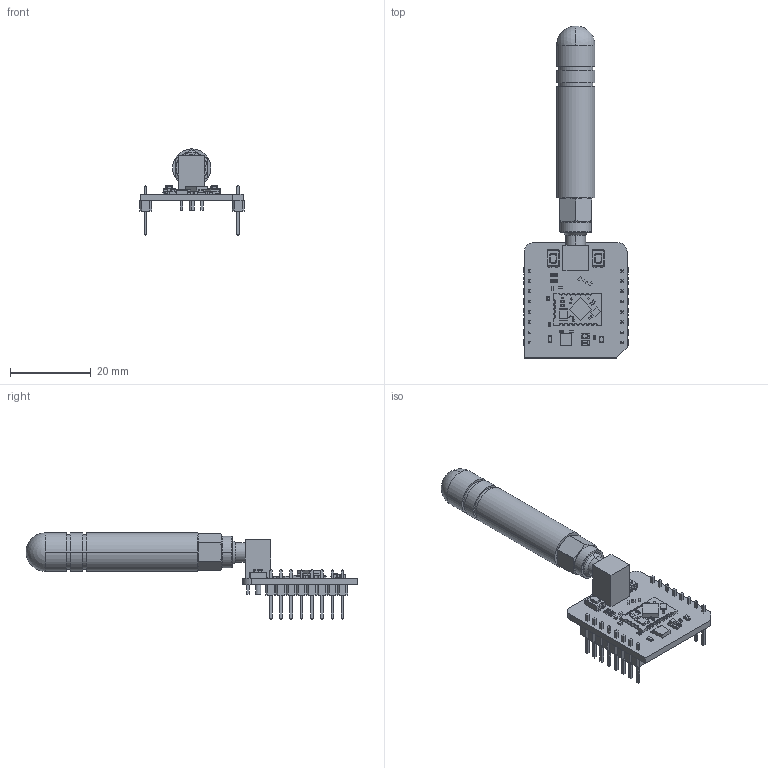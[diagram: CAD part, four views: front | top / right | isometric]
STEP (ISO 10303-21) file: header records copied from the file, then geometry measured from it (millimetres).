
FILE_DESCRIPTION(('Open CASCADE Model'),'2;1');
FILE_NAME('Open CASCADE Shape Model','2025-12-09T09:23:52',('Author'),( 'Open CASCADE'),'Open CASCADE STEP processor 6.8','Open CASCADE 6.8' ,'Unknown');
FILE_SCHEMA(('AUTOMOTIVE_DESIGN { 1 0 10303 214 1 1 1 1 }'));
Length unit declared in the file: millimetre
Products named in the file (48): PCB; Board; R6; User_Library-R_0603; R5; U1; 803281880; Extruded; T2; User_Library-Switch-CK-KMR2; User_Library-Switch-CK-KMR2_Button; User_Library-Switch-CK-KMR2_Boitier; User_Library-Switch-CK-KMR2_Tole; User_Library-Switch-CK-KMR2_Pads; T1; R2; User_Library-R_0402; R3; LD3; User_Library-LED0603_BLUE-1; LD2; Led_0603; FB1; User_Library-Chip_InductorINDC1005X60N; CN1; User_Library-Antenna_AP22A; User_Library-sma_ra_pcb_mount_molex; C1; User_Library-SMD_CAPACITOR0402; C6; C5; C4; C3; MBD1; Header_1x8; Free-Models; 1240637040; User_Library-PinHeaderX5-1_PinHeaderX5_Body_1; User_Library-PinHeaderX5-1_PinHeaderX5_Pins_1; U2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
Assembly tree (58 placements, depth 7):
  PCB
    Board
    R6
      User_Library-R_0603
    R5
      User_Library-R_0603
    U1
      803281880
        Extruded
    T2
      User_Library-Switch-CK-KMR2
        User_Library-Switch-CK-KMR2_Button
        User_Library-Switch-CK-KMR2_Boitier
        User_Library-Switch-CK-KMR2_Tole
        User_Library-Switch-CK-KMR2_Pads
    T1
      User_Library-Switch-CK-KMR2
        User_Library-Switch-CK-KMR2_Button
        User_Library-Switch-CK-KMR2_Boitier
        User_Library-Switch-CK-KMR2_Tole
        User_Library-Switch-CK-KMR2_Pads
    R2
      User_Library-R_0402
    R3
      User_Library-R_0402
    LD3
      User_Library-LED0603_BLUE-1
    LD2
      Led_0603
    FB1
      User_Library-Chip_InductorINDC1005X60N
    CN1
      User_Library-Antenna_AP22A
      User_Library-sma_ra_pcb_mount_molex
    C1
      User_Library-SMD_CAPACITOR0402
    C6
      User_Library-SMD_CAPACITOR0402
    C5
      User_Library-SMD_CAPACITOR0402
    C4
      User_Library-SMD_CAPACITOR0402
    C3
      User_Library-SMD_CAPACITOR0402
    MBD1
      Header_1x8  x2
        PCB
          Free-Models
            1240637040  x2
              User_Library-PinHeaderX5-1_PinHeaderX5_Body_1
              User_Library-PinHeaderX5-1_PinHeaderX5_Pins_1
    U2
      260905118xxx
    C2
      User_Library-SMD_CAPACITOR0402
    R4
      User_Library-R_0402
    LD1
      led_0805_green
    R1
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Bounding box: 25.78 x 82.17 x 21.36 mm (x, y, z)
Volume: 5608.2 mm3; surface area: 5962.8 mm2
Topology: 64 solids, 64 shells, 2291 faces, 5825 edges, 3670 vertices
Faces by surface type: plane 1640, cylinder 311, bspline 234, sphere 78, cone 18, torus 10
Entity records: 55004 total; most frequent: CARTESIAN_POINT 14825, ORIENTED_EDGE 6724, DIRECTION 6044, EDGE_CURVE 3362, LINE 2654, VECTOR 2654, VERTEX_POINT 2160, AXIS2_PLACEMENT_3D 1695
